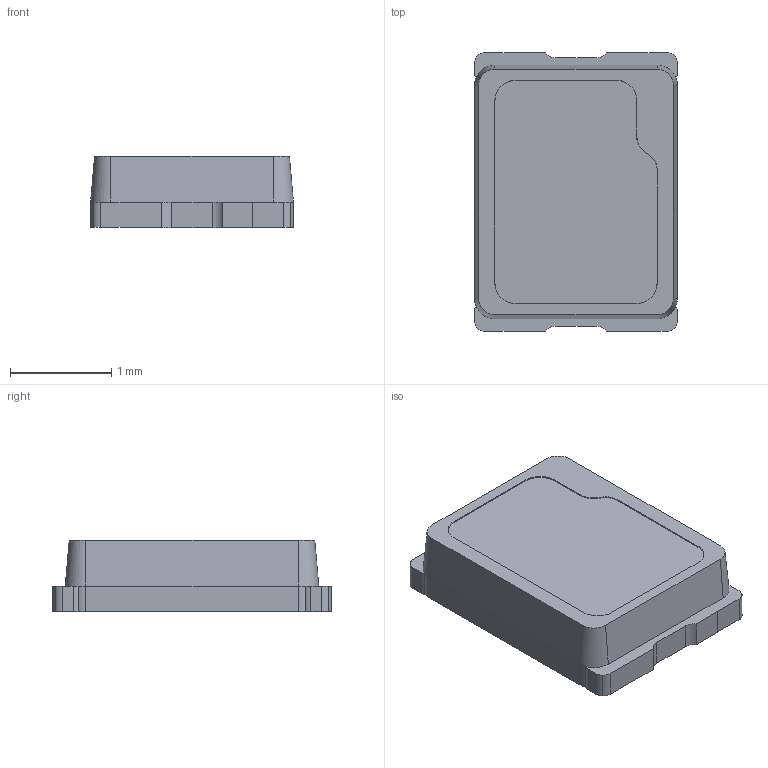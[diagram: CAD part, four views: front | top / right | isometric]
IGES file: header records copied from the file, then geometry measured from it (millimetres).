
Start section: 3D InterOp IGES (Version 20 0 3), Spatial Corp. Copyright (c) 1999-2007.
Global section: file name: SVA-TZHG_300921.igs; native system: Spatial Corp.; preprocessor: 3D InterOp ACIS/IGES; author: Noname; organization: Noname; date: 20230302.091118; units: millimetre
Bounding box: 2 x 2.75 x 0.7 mm (x, y, z)
Surface area: 16.8 mm2 (no closed solid volume)
Topology: 0 solids, 0 shells, 87 faces, 488 edges, 488 vertices
Faces by surface type: revolution 44, extrusion 43
